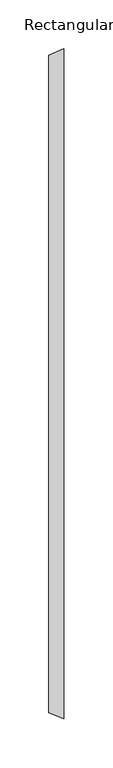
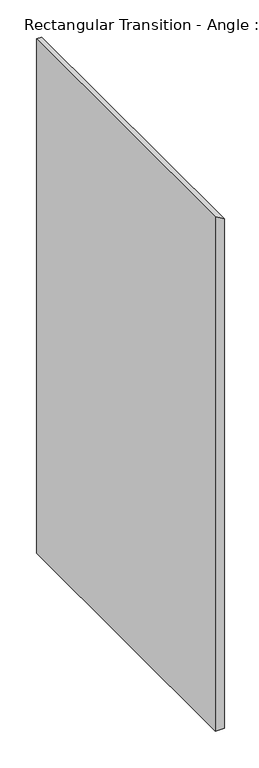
"""IFC4 building model written with IfcOpenShell, lengths in millimetres: duct fitting geometry, Rectangular Transition - Angle : 45 Degree."""

from ifc_helpers import new_model, si_unit, origin, place, context, project, spatial, faceted_brep, source, transform, mapped, element, save


def rectangular_transition_angle_45_degree_4fa393de(model_context):
    return source(origin(), model_context, "Body", "Brep", [
        faceted_brep([(15.3302561, -342.9, 584.2), (15.3302561, -342.9, -584.2), (15.3302561, 342.9, -584.2), (15.3302561, 342.9, 584.2), (0.0, -336.55, 589.75625), (0.0, 336.55, 589.75625), (0.0, 336.55, -589.75625), (0.0, -336.55, -589.75625)], [[[0, 1, 2, 3]], [[4, 5, 6, 7]], [[4, 7, 1, 0]], [[7, 6, 2, 1]], [[6, 5, 3, 2]], [[5, 4, 0, 3]]]),
    ])


if __name__ == "__main__":
    model = new_model("IFC4")
    model_context = context("Model", 3, world=origin())
    ifc_project = project(units=[si_unit("LENGTHUNIT", "METRE", prefix="MILLI")], contexts=[model_context])
    site = spatial("IfcSite", under=ifc_project)
    building = spatial("IfcBuilding", under=site)
    placement = place(None, origin())
    rectangular_transition_angle_45_degree_shape = rectangular_transition_angle_45_degree_4fa393de(model_context)
    element("IfcDuctFitting", 1, ObjectType="Rectangular Transition - Angle : 45 Degree", at=placement, inside=building, context=model_context, shape_type="MappedRepresentation", body=[
        mapped(rectangular_transition_angle_45_degree_shape, transform((0.0, 0.0, 0.0), x_axis=(1.0, 0.0, 0.0), y_axis=(0.0, 1.0, 0.0), z_axis=(0.0, 0.0, 1.0))),
    ])
    save(model, "model.ifc")
